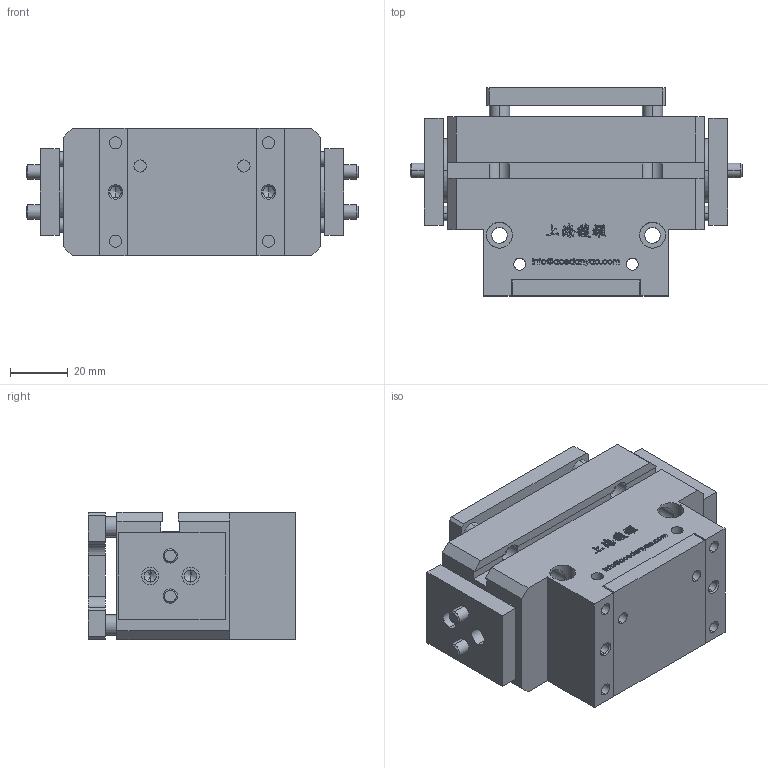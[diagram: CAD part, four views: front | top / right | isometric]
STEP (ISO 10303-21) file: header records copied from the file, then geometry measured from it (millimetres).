
FILE_DESCRIPTION (( 'STEP AP203' ), '1' );
FILE_NAME ('SRO-80-P-原始檔-組合-W106.04.20.STEP', '2017-04-20T08:27:29', ( 'DanyaoCAD' ), ( '' ), 'SwSTEP 2.0', 'SolidWorks 2016', '' );
FILE_SCHEMA (( 'CONFIG_CONTROL_DESIGN' ));
Length unit declared in the file: millimetre
Products named in the file (5): Piattello; Griffa; Fondello; Corpo; SRO-80-P-原始檔-組合-W106.04.20
Assembly tree (5 placements, depth 2):
  SRO-80-P-原始檔-組合-W106.04.20
    Piattello
    Griffa  x2
    Fondello
    Corpo
Bounding box: 115 x 72 x 44 mm (x, y, z)
Volume: 223970.9 mm3; surface area: 63800.8 mm2
Topology: 5 solids, 5 shells, 1038 faces, 2866 edges, 1892 vertices
Faces by surface type: bspline 640, plane 260, cylinder 106, cone 32
Entity records: 49217 total; most frequent: CARTESIAN_POINT 27333, ORIENTED_EDGE 5544, EDGE_CURVE 2772, DIRECTION 2382, VERTEX_POINT 1842, B_SPLINE_CURVE_WITH_KNOTS 1312, VECTOR 1272, LINE 1272
